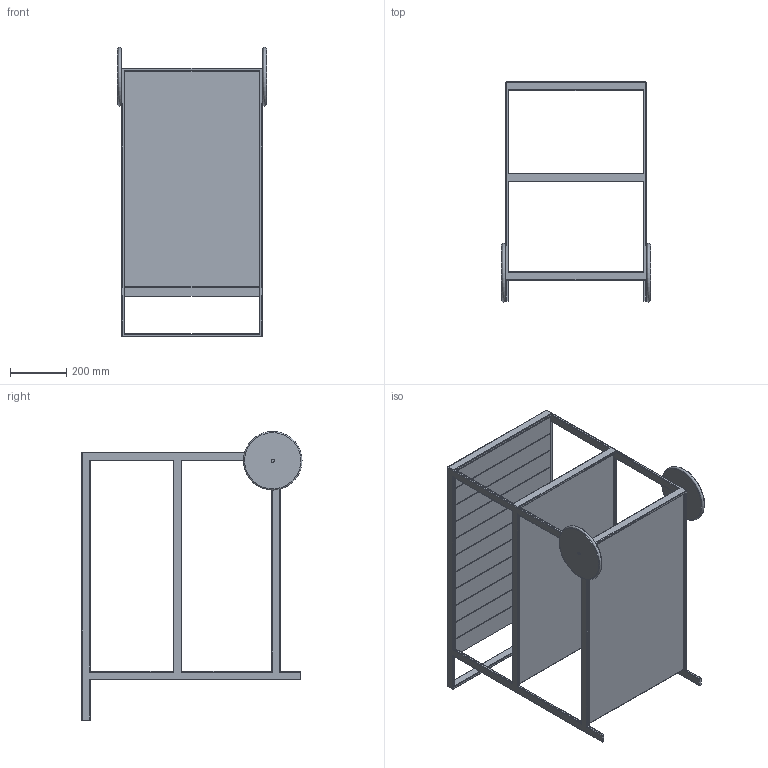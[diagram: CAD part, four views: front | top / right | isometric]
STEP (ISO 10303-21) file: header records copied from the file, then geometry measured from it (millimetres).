
FILE_DESCRIPTION(/* description */ (''),/* implementation_level */ '2;1');
FILE_NAME(/* name */ 'C:\INVENTOR\Workspace\# ARKITEKT FILER\Trolley\Trolley.stp',/* time_stamp */ '2020-05-18T15:30:39+02:00',/* author */ ('Röshults'),/* organization */ (''),/* preprocessor_version */ 'ST-DEVELOPER v17.2',/* originating_system */ 'Autodesk Inventor 2019',/* authorisation */ '');
FILE_SCHEMA (('AUTOMOTIVE_DESIGN { 1 0 10303 214 3 1 1 }'));
Length unit declared in the file: millimetre
Products named in the file (3): Trolly; Trolly Base; Trolly Teak
Assembly tree (2 placements, depth 2):
  Trolly
    Trolly Base
    Trolly Teak
Bounding box: 532 x 783.5 x 1029.5 mm (x, y, z)
Volume: 31982994.6 mm3; surface area: 3406982 mm2
Topology: 12 solids, 12 shells, 228 faces, 539 edges, 332 vertices
Faces by surface type: plane 129, cylinder 91, sphere 6, torus 2
Full cylindrical faces by diameter (mm): 10.848 x2, 200 x4
Entity records: 6628 total; most frequent: CARTESIAN_POINT 1176, DIRECTION 1121, ORIENTED_EDGE 1078, EDGE_CURVE 539, LINE 407, VECTOR 407, AXIS2_PLACEMENT_3D 357, VERTEX_POINT 332
